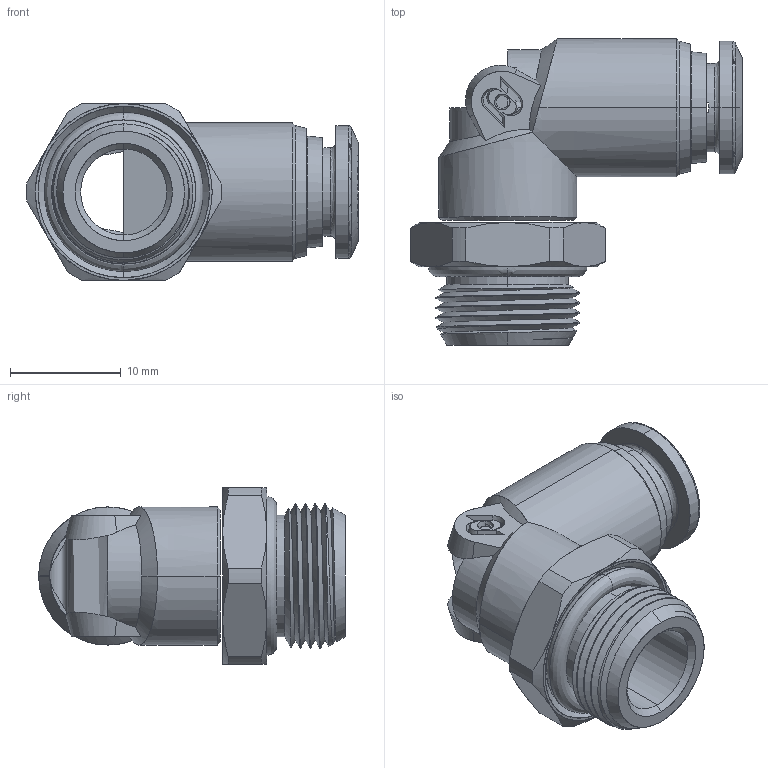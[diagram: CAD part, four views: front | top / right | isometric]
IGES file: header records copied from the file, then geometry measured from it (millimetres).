
Start section: SolidWorks IGES file using analytic representation for surfaces
Global section: file name: C:\Users\cad06\Desktop\Nuova cartella\40116V0009A.IGS; native system: SolidWorks 2016; preprocessor: SolidWorks 2016; author: cad06; date: 160518.141333; units: millimetre
Bounding box: 30.05 x 27.75 x 16 mm (x, y, z)
Surface area: 3094.9 mm2 (no closed solid volume)
Topology: 0 solids, 0 shells, 157 faces, 2118 edges, 2117 vertices
Faces by surface type: revolution 90, bspline 67
